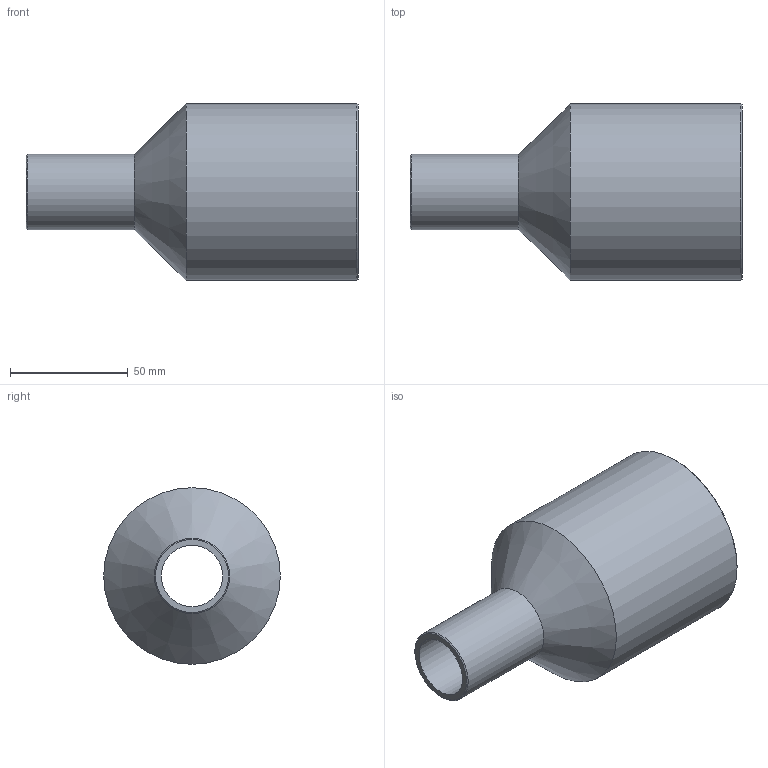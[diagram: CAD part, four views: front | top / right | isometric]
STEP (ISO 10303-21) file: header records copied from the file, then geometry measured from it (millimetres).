
FILE_DESCRIPTION(/* description */ ('Unknown'),/* implementation_level */ '2;1');
FILE_NAME(/* name */ 'RP075032C',/* time_stamp */ '2021-09-17T15:01:10+02:00',/* author */ ('Unknown'),/* organization */ ('Unknown'),/* preprocessor_version */ 'ST-DEVELOPER v16.7',/* originating_system */ 'Solid Edge',/* authorisation */ 'Unknown');
FILE_SCHEMA (('AUTOMOTIVE_DESIGN {1 0 10303 214 3 1 1}'));
Length unit declared in the file: millimetre
Products named in the file (1): RP075032C
Bounding box: 141 x 75 x 75 mm (x, y, z)
Volume: 145202 mm3; surface area: 49868.8 mm2
Topology: 1 solids, 1 shells, 10 faces, 19 edges, 11 vertices
Faces by surface type: cylinder 4, cone 4, plane 2
Full cylindrical faces by diameter (mm): 26 x1, 32 x1, 61.4 x1, 75 x1
Entity records: 238 total; most frequent: DIRECTION 42, CARTESIAN_POINT 31, AXIS2_PLACEMENT_3D 21, ORIENTED_EDGE 20, EDGE_LOOP 20, FACE_BOUND 20, EDGE_CURVE 10, VERTEX_POINT 10
